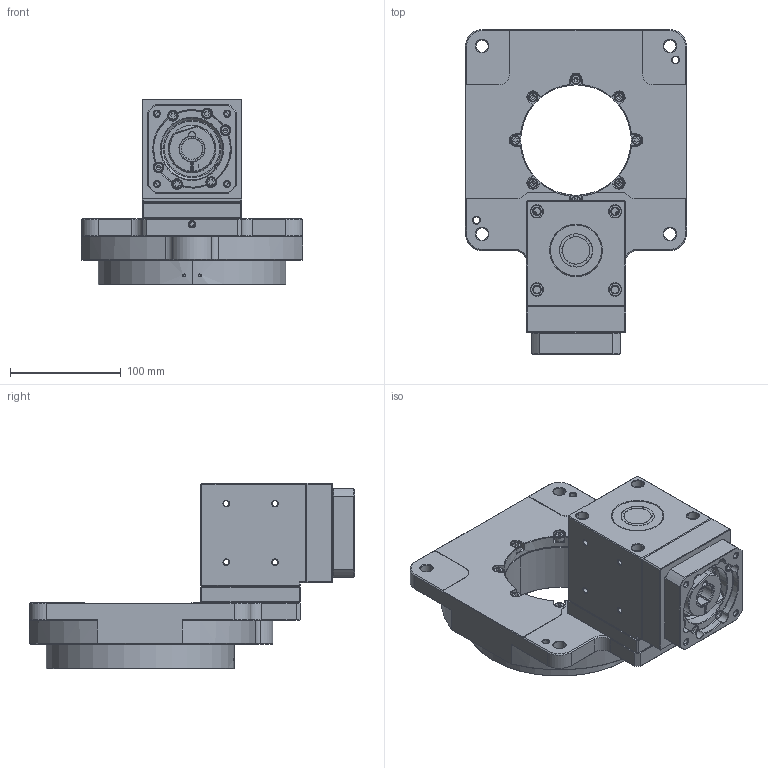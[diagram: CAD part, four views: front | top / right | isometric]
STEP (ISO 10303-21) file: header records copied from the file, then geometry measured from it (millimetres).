
FILE_DESCRIPTION (( 'STEP AP203' ), '1' );
FILE_NAME ('80-2.STEP', '2021-03-09T07:47:26', ( '' ), ( '' ), 'SwSTEP 2.0', 'SolidWorks 2012', '' );
FILE_SCHEMA (( 'CONFIG_CONTROL_DESIGN' ));
Length unit declared in the file: millimetre
Products named in the file (1): 80-2
Bounding box: 200 x 294 x 168 mm (x, y, z)
Surface area: 256728.7 mm2 (no closed solid volume)
Topology: 0 solids, 48 shells, 854 faces, 2784 edges, 1906 vertices
Faces by surface type: plane 372, cone 222, cylinder 203, torus 47, bspline 10
Entity records: 34033 total; most frequent: CARTESIAN_POINT 9655, DIRECTION 5214, ORIENTED_EDGE 4531, EDGE_CURVE 2768, VERTEX_POINT 1906, AXIS2_PLACEMENT_3D 1887, VECTOR 1440, LINE 1440
